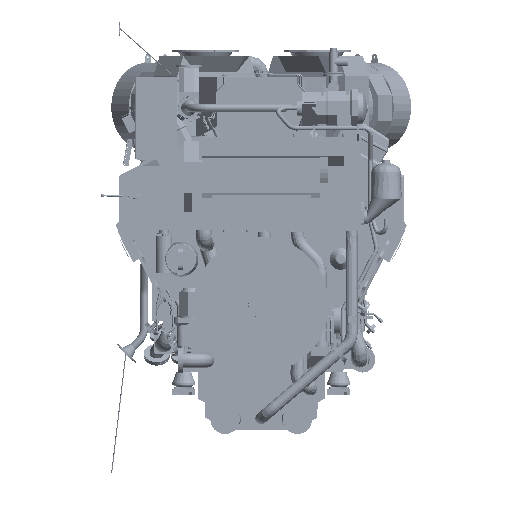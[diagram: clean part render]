
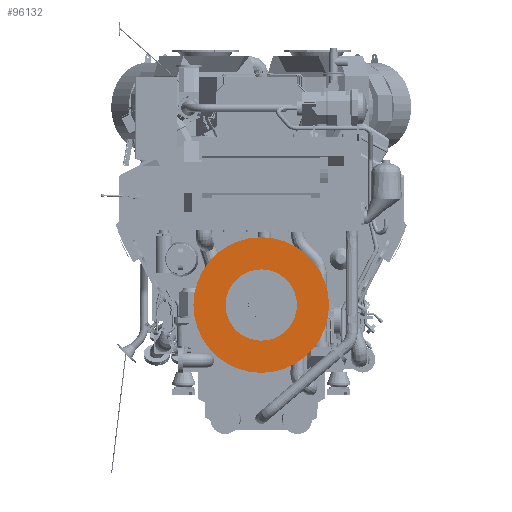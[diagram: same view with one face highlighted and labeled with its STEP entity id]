
A CAD part, left-side view. The second image highlights one B-rep face of the part: STEP entity #96132.
In plain terms, the highlighted planar face has unit normal (-1, 0, 0).
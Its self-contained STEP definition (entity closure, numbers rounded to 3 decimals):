
#96132=ADVANCED_FACE('',(#127286,#127287),#116348,.F.);
#116348=PLANE('',#343372);
#127286=FACE_BOUND('',#138492,.T.);
#127287=FACE_BOUND('',#138493,.T.);
#138492=EDGE_LOOP('',(#167660));
#138493=EDGE_LOOP('',(#167661));
#167660=ORIENTED_EDGE('',*,*,#287380,.T.);
#167661=ORIENTED_EDGE('',*,*,#287378,.F.);
#256176=VERTEX_POINT('',#480372);
#256178=VERTEX_POINT('',#480377);
#287378=EDGE_CURVE('',#256176,#256176,#331176,.T.);
#287380=EDGE_CURVE('',#256178,#256178,#331178,.T.);
#331176=CIRCLE('',#343368,656.);
#331178=CIRCLE('',#343371,345.);
#343368=AXIS2_PLACEMENT_3D('',#480371,#377788,#377789);
#343371=AXIS2_PLACEMENT_3D('',#480376,#377794,#377795);
#343372=AXIS2_PLACEMENT_3D('',#480378,#377796,#377797);
#377788=DIRECTION('',(1.,0.,0.));
#377789=DIRECTION('',(0.,1.,0.));
#377794=DIRECTION('',(1.,0.,0.));
#377795=DIRECTION('',(0.,1.,0.));
#377796=DIRECTION('',(1.,0.,0.));
#377797=DIRECTION('',(0.,0.,-1.));
#480371=CARTESIAN_POINT('',(0.,0.,0.));
#480372=CARTESIAN_POINT('',(0.,656.,0.));
#480376=CARTESIAN_POINT('',(0.,0.,0.));
#480377=CARTESIAN_POINT('',(0.,345.,0.));
#480378=CARTESIAN_POINT('',(0.,0.,0.));
